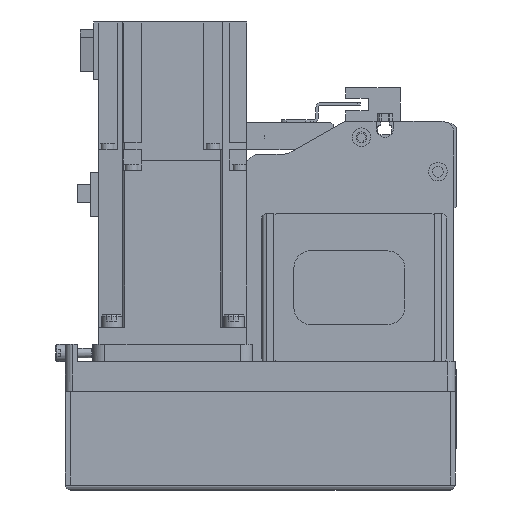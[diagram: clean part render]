
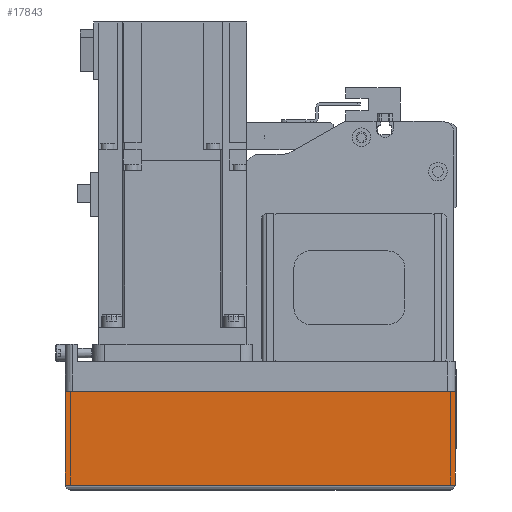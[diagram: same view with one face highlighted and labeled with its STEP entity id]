
A CAD part, left-side view. The second image highlights one B-rep face of the part: STEP entity #17843.
In plain terms, the highlighted planar face has unit normal (-1, 0, 0) as drawn and (0, -1, 0) by its records, which use the part's own axes.
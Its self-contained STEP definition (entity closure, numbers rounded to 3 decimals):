
#2784=ORIENTED_EDGE('',*,*,#7159,.F.);
#2785=ORIENTED_EDGE('',*,*,#7141,.F.);
#2786=ORIENTED_EDGE('',*,*,#7176,.T.);
#2787=ORIENTED_EDGE('',*,*,#7231,.T.);
#7141=EDGE_CURVE('',#9519,#9520,#11341,.T.);
#7159=EDGE_CURVE('',#9520,#9536,#11359,.T.);
#7176=EDGE_CURVE('',#9519,#9546,#11372,.T.);
#7231=EDGE_CURVE('',#9546,#9536,#11400,.T.);
#9519=VERTEX_POINT('',#27360);
#9520=VERTEX_POINT('',#27361);
#9536=VERTEX_POINT('',#27398);
#9546=VERTEX_POINT('',#27428);
#11341=LINE('',#27359,#12981);
#11359=LINE('',#27397,#12999);
#11372=LINE('',#27429,#13012);
#11400=LINE('',#27527,#13040);
#12981=VECTOR('',#21899,1000.);
#12999=VECTOR('',#21923,1000.);
#13012=VECTOR('',#21952,1000.);
#13040=VECTOR('',#22080,1000.);
#14509=EDGE_LOOP('',(#2784,#2785,#2786,#2787));
#15889=FACE_BOUND('',#14509,.T.);
#17096=PLANE('',#19144);
#17843=ADVANCED_FACE('',(#15889),#17096,.T.);
#19144=AXIS2_PLACEMENT_3D('',#27528,#22081,#22082);
#21899=DIRECTION('',(1.,0.,0.));
#21923=DIRECTION('',(0.,0.,-1.));
#21952=DIRECTION('',(0.,0.,-1.));
#22080=DIRECTION('',(1.,0.,0.));
#22081=DIRECTION('',(0.,-1.,0.));
#22082=DIRECTION('',(0.,0.,-1.));
#27359=CARTESIAN_POINT('',(-158.,-39.,-12.1));
#27360=CARTESIAN_POINT('',(-158.,-39.,-12.1));
#27361=CARTESIAN_POINT('',(0.,-39.,-12.1));
#27397=CARTESIAN_POINT('',(0.,-39.,-12.1));
#27398=CARTESIAN_POINT('',(0.,-39.,-50.));
#27428=CARTESIAN_POINT('',(-158.,-39.,-50.));
#27429=CARTESIAN_POINT('',(-158.,-39.,-12.1));
#27527=CARTESIAN_POINT('',(-158.,-39.,-50.));
#27528=CARTESIAN_POINT('',(-158.,-39.,-12.1));
